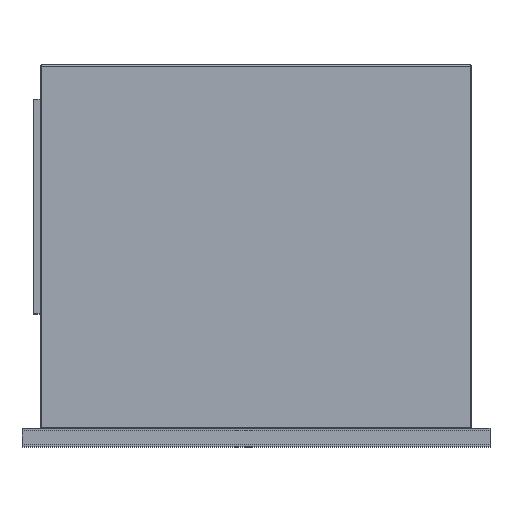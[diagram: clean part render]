
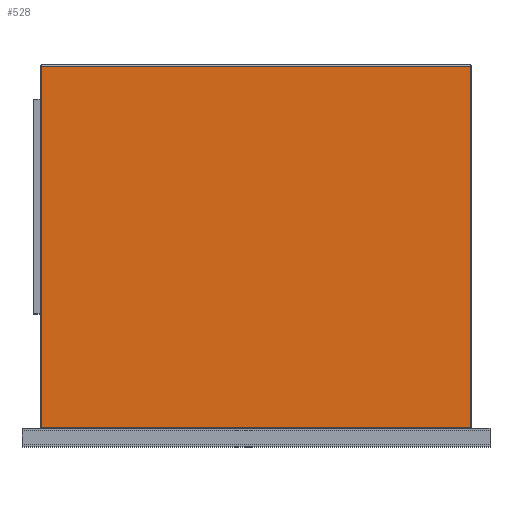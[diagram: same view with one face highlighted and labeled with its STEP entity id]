
A CAD part, top view. The second image highlights one B-rep face of the part: STEP entity #528.
In plain terms, the highlighted planar face has unit normal (0, 0, 1).
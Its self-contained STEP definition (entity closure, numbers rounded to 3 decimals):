
#528=ADVANCED_FACE('',(#1073),#1074,.F.);
#1073=FACE_OUTER_BOUND('',#1616,.T.);
#1074=PLANE('',#1617);
#1616=EDGE_LOOP('',(#3163,#3164,#3165,#3166));
#1617=AXIS2_PLACEMENT_3D('',#3167,#3168,#3169);
#3163=ORIENTED_EDGE('',*,*,#3778,.T.);
#3164=ORIENTED_EDGE('',*,*,#3818,.T.);
#3165=ORIENTED_EDGE('',*,*,#3800,.F.);
#3166=ORIENTED_EDGE('',*,*,#3825,.F.);
#3167=CARTESIAN_POINT('',(0.,0.0,475.0));
#3168=DIRECTION('',(0.,0.0,-1.0));
#3169=DIRECTION('',(-1.0,0.0,0.));
#3778=EDGE_CURVE('',#4656,#4660,#4662,.T.);
#3800=EDGE_CURVE('',#4694,#4688,#4696,.T.);
#3818=EDGE_CURVE('',#4660,#4688,#4716,.T.);
#3825=EDGE_CURVE('',#4656,#4694,#4723,.T.);
#4656=VERTEX_POINT('',#5834);
#4660=VERTEX_POINT('',#5838);
#4662=LINE('',#5840,#5841);
#4688=VERTEX_POINT('',#5870);
#4694=VERTEX_POINT('',#5877);
#4696=LINE('',#5879,#5880);
#4716=LINE('',#5904,#5905);
#4723=LINE('',#5915,#5916);
#5834=CARTESIAN_POINT('',(-945.0,-795.0,475.0));
#5838=CARTESIAN_POINT('',(945.0,-795.0,475.0));
#5840=CARTESIAN_POINT('',(0.,-795.0,475.0));
#5841=VECTOR('',#6601,1.0);
#5870=CARTESIAN_POINT('',(945.0,795.0,475.0));
#5877=CARTESIAN_POINT('',(-945.0,795.0,475.0));
#5879=CARTESIAN_POINT('',(0.,795.0,475.0));
#5880=VECTOR('',#6639,1.0);
#5904=CARTESIAN_POINT('',(945.0,0.,475.0));
#5905=VECTOR('',#6662,1.0);
#5915=CARTESIAN_POINT('',(-945.0,0.0,475.0));
#5916=VECTOR('',#6666,1.0);
#6601=DIRECTION('',(1.0,0.0,0.));
#6639=DIRECTION('',(1.0,0.0,0.));
#6662=DIRECTION('',(0.0,1.0,0.));
#6666=DIRECTION('',(0.,1.0,0.));
